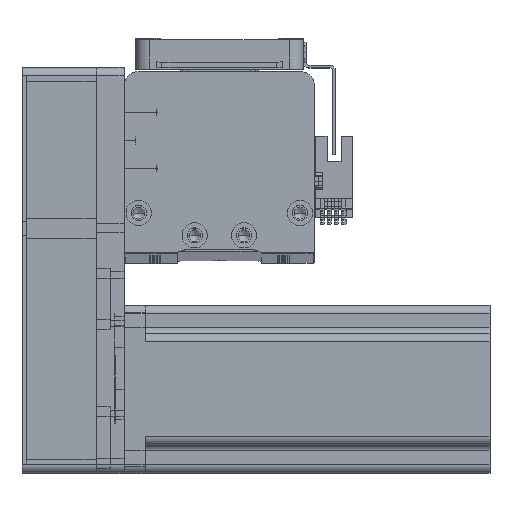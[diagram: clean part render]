
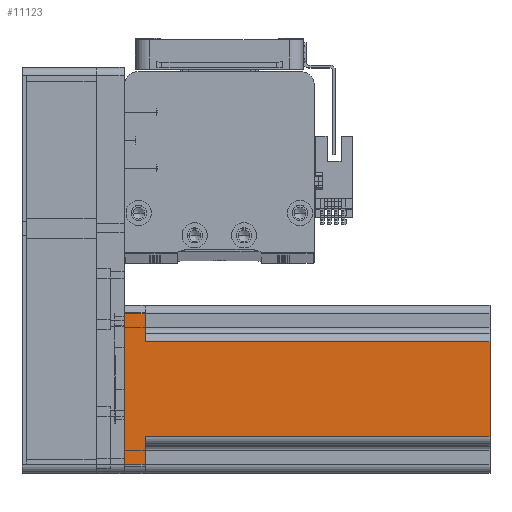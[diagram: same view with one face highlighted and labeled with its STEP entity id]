
A CAD part, top view. The second image highlights one B-rep face of the part: STEP entity #11123.
In plain terms, the highlighted planar face has unit normal (0, 0, 1) as drawn and (0, -1, 0) by its records, which use the part's own axes.
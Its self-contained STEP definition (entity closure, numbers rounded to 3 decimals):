
#443 = CARTESIAN_POINT ( 'NONE',  ( -20., -30., 7.5 ) ) ;
#635 = AXIS2_PLACEMENT_3D ( 'NONE', #44168, #19571, #48306 ) ;
#1297 = EDGE_CURVE ( 'NONE', #3006, #44663, #37677, .T. ) ;
#2019 = CARTESIAN_POINT ( 'NONE',  ( 17., -30., 7.5 ) ) ;
#3006 = VERTEX_POINT ( 'NONE', #27041 ) ;
#3658 = VECTOR ( 'NONE', #5506, 1000. ) ;
#3981 = CARTESIAN_POINT ( 'NONE',  ( -17., -30., 130.7 ) ) ;
#4751 = VECTOR ( 'NONE', #36989, 1000. ) ;
#5017 = VECTOR ( 'NONE', #48319, 1000. ) ;
#5506 = DIRECTION ( 'NONE',  ( 1., 0., 0. ) ) ;
#7741 = LINE ( 'NONE', #18806, #48810 ) ;
#7886 = DIRECTION ( 'NONE',  ( 1., 0., 0. ) ) ;
#8098 = CARTESIAN_POINT ( 'NONE',  ( 17., -30., 130.7 ) ) ;
#8164 = LINE ( 'NONE', #40685, #17788 ) ;
#9713 = ORIENTED_EDGE ( 'NONE', *, *, #28309, .F. ) ;
#9919 = CARTESIAN_POINT ( 'NONE',  ( -17., -30., 7.5 ) ) ;
#11123 = ADVANCED_FACE ( 'NONE', ( #20423 ), #27518, .F. ) ;
#12398 = CARTESIAN_POINT ( 'NONE',  ( -27., -30., 0. ) ) ;
#13602 = EDGE_CURVE ( 'NONE', #33940, #45116, #7741, .T. ) ;
#14353 = LINE ( 'NONE', #52590, #34928 ) ;
#14450 = ORIENTED_EDGE ( 'NONE', *, *, #20486, .T. ) ;
#17788 = VECTOR ( 'NONE', #7886, 1000. ) ;
#17801 = LINE ( 'NONE', #44905, #35811 ) ;
#18171 = CARTESIAN_POINT ( 'NONE',  ( 27., -30., 7.5 ) ) ;
#18806 = CARTESIAN_POINT ( 'NONE',  ( 20., -30., 7.5 ) ) ;
#18889 = ORIENTED_EDGE ( 'NONE', *, *, #19077, .T. ) ;
#18930 = EDGE_CURVE ( 'NONE', #39203, #33940, #19110, .T. ) ;
#19077 = EDGE_CURVE ( 'NONE', #3006, #44889, #37758, .T. ) ;
#19110 = LINE ( 'NONE', #43111, #30040 ) ;
#19571 = DIRECTION ( 'NONE',  ( 0., 1., 0. ) ) ;
#19969 = DIRECTION ( 'NONE',  ( 1., 0., 0. ) ) ;
#20423 = FACE_OUTER_BOUND ( 'NONE', #33303, .T. ) ;
#20486 = EDGE_CURVE ( 'NONE', #27353, #44663, #27857, .T. ) ;
#23048 = ORIENTED_EDGE ( 'NONE', *, *, #18930, .T. ) ;
#24359 = CARTESIAN_POINT ( 'NONE',  ( -17., -30., 130.7 ) ) ;
#24714 = ORIENTED_EDGE ( 'NONE', *, *, #13602, .T. ) ;
#27041 = CARTESIAN_POINT ( 'NONE',  ( -27., -30., 7.5 ) ) ;
#27104 = DIRECTION ( 'NONE',  ( -1., 0., 0. ) ) ;
#27353 = VERTEX_POINT ( 'NONE', #24359 ) ;
#27518 = PLANE ( 'NONE',  #635 ) ;
#27857 = LINE ( 'NONE', #3981, #4751 ) ;
#28309 = EDGE_CURVE ( 'NONE', #27353, #44858, #8164, .T. ) ;
#30040 = VECTOR ( 'NONE', #34744, 1000. ) ;
#30232 = EDGE_CURVE ( 'NONE', #44889, #39203, #14353, .T. ) ;
#33303 = EDGE_LOOP ( 'NONE', ( #9713, #14450, #34487, #18889, #38702, #23048, #24714, #43026 ) ) ;
#33940 = VERTEX_POINT ( 'NONE', #18171 ) ;
#34487 = ORIENTED_EDGE ( 'NONE', *, *, #1297, .F. ) ;
#34744 = DIRECTION ( 'NONE',  ( 0., 0., 1. ) ) ;
#34928 = VECTOR ( 'NONE', #19969, 1000. ) ;
#35811 = VECTOR ( 'NONE', #49040, 1000. ) ;
#36989 = DIRECTION ( 'NONE',  ( 0., 0., -1. ) ) ;
#37677 = LINE ( 'NONE', #443, #3658 ) ;
#37758 = LINE ( 'NONE', #44182, #5017 ) ;
#38702 = ORIENTED_EDGE ( 'NONE', *, *, #30232, .T. ) ;
#39203 = VERTEX_POINT ( 'NONE', #46431 ) ;
#40685 = CARTESIAN_POINT ( 'NONE',  ( 30., -30., 130.7 ) ) ;
#43026 = ORIENTED_EDGE ( 'NONE', *, *, #44406, .T. ) ;
#43111 = CARTESIAN_POINT ( 'NONE',  ( 27., -30., 130.7 ) ) ;
#44168 = CARTESIAN_POINT ( 'NONE',  ( 30., -30., 130.7 ) ) ;
#44182 = CARTESIAN_POINT ( 'NONE',  ( -27., -30., 130.7 ) ) ;
#44406 = EDGE_CURVE ( 'NONE', #45116, #44858, #17801, .T. ) ;
#44663 = VERTEX_POINT ( 'NONE', #9919 ) ;
#44858 = VERTEX_POINT ( 'NONE', #8098 ) ;
#44889 = VERTEX_POINT ( 'NONE', #12398 ) ;
#44905 = CARTESIAN_POINT ( 'NONE',  ( 17., -30., 130.7 ) ) ;
#45116 = VERTEX_POINT ( 'NONE', #2019 ) ;
#46431 = CARTESIAN_POINT ( 'NONE',  ( 27., -30., 0. ) ) ;
#48306 = DIRECTION ( 'NONE',  ( -1., 0., 0. ) ) ;
#48319 = DIRECTION ( 'NONE',  ( 0., 0., -1. ) ) ;
#48810 = VECTOR ( 'NONE', #27104, 1000. ) ;
#49040 = DIRECTION ( 'NONE',  ( 0., 0., 1. ) ) ;
#52590 = CARTESIAN_POINT ( 'NONE',  ( 30., -30., 0. ) ) ;
